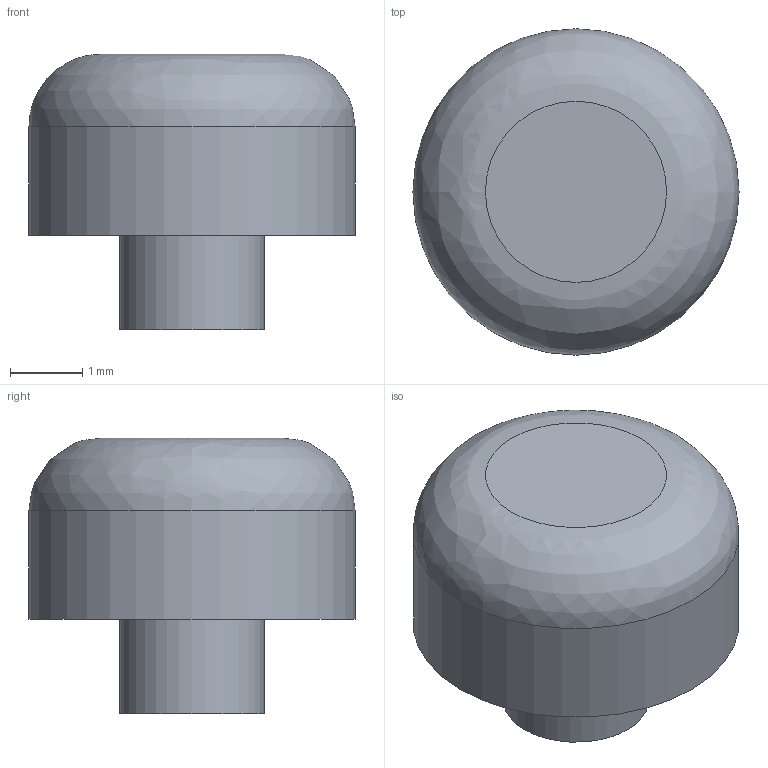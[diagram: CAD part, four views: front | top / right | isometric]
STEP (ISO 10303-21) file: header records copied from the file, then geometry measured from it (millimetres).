
FILE_DESCRIPTION(/* description */ (''),/* implementation_level */ '2;1');
FILE_NAME(/* name */ 'habit_tracker_buttoncap',/* time_stamp */ '2026-03-16T12:44:12+01:00',/* author */ (''),/* organization */ (''),/* preprocessor_version */ 'ST-DEVELOPER v19.2',/* originating_system */ 'Rhino 8.0',/* authorisation */ '');
FILE_SCHEMA (('CONFIG_CONTROL_DESIGN'));
Length unit declared in the file: millimetre
Products named in the file (1): Document
Bounding box: 4.5 x 4.5 x 3.8 mm (x, y, z)
Volume: 41.1 mm3; surface area: 68.9 mm2
Topology: 1 solids, 1 shells, 6 faces, 8 edges, 5 vertices
Faces by surface type: plane 3, cylinder 2, bspline 1
Full cylindrical faces by diameter (mm): 2 x1, 4.5 x1
Entity records: 233 total; most frequent: CARTESIAN_POINT 51, DIRECTION 21, ORIENTED_EDGE 16, AXIS2_PLACEMENT_3D 13, EDGE_CURVE 8, EDGE_LOOP 7, ORGANIZATION 7, PERSON_AND_ORGANIZATION 7
